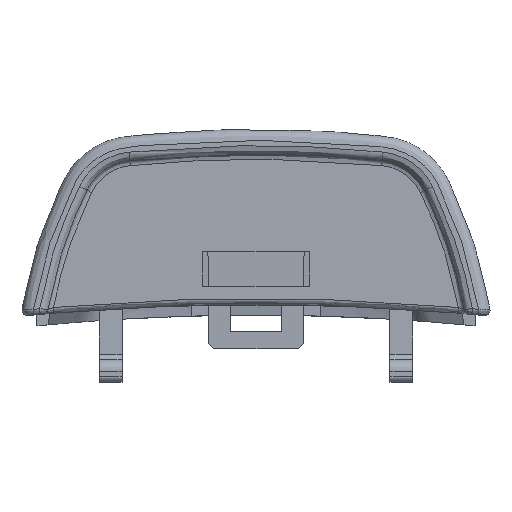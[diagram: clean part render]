
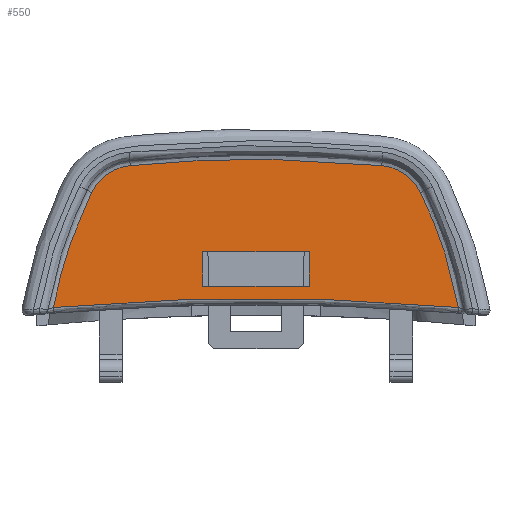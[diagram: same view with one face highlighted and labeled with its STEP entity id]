
A CAD part, front view. The second image highlights one B-rep face of the part: STEP entity #550.
In plain terms, the highlighted planar face has unit normal (0, -1, 0.018).
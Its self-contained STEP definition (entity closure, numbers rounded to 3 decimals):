
#137=(
BOUNDED_CURVE()
B_SPLINE_CURVE(3,(#37943,#37944,#37945,#37946),.UNSPECIFIED.,.F.,.F.)
B_SPLINE_CURVE_WITH_KNOTS((4,4),(0.,1.),.UNSPECIFIED.)
CURVE()
GEOMETRIC_REPRESENTATION_ITEM()
RATIONAL_B_SPLINE_CURVE((1.,0.997,0.997,1.))
REPRESENTATION_ITEM('')
);
#251=PLANE('',#1778);
#346=LINE('',#38021,#452);
#347=LINE('',#38024,#453);
#348=LINE('',#38026,#454);
#349=LINE('',#38028,#455);
#452=VECTOR('',#1907,1.);
#453=VECTOR('',#1908,1.);
#454=VECTOR('',#1909,1.);
#455=VECTOR('',#1910,1.);
#550=ADVANCED_FACE('',(#648,#649),#251,.T.);
#648=FACE_BOUND('',#679,.T.);
#649=FACE_BOUND('',#680,.T.);
#679=EDGE_LOOP('',(#864,#865,#866,#867,#868,#869));
#680=EDGE_LOOP('',(#870,#871,#872,#873));
#864=ORIENTED_EDGE('',*,*,#1517,.T.);
#865=ORIENTED_EDGE('',*,*,#1518,.T.);
#866=ORIENTED_EDGE('',*,*,#1519,.T.);
#867=ORIENTED_EDGE('',*,*,#1520,.T.);
#868=ORIENTED_EDGE('',*,*,#1521,.T.);
#869=ORIENTED_EDGE('',*,*,#1522,.T.);
#870=ORIENTED_EDGE('',*,*,#1523,.T.);
#871=ORIENTED_EDGE('',*,*,#1524,.T.);
#872=ORIENTED_EDGE('',*,*,#1525,.F.);
#873=ORIENTED_EDGE('',*,*,#1526,.F.);
#1342=VERTEX_POINT('',#37947);
#1343=VERTEX_POINT('',#37948);
#1344=VERTEX_POINT('',#37961);
#1345=VERTEX_POINT('',#37978);
#1346=VERTEX_POINT('',#37991);
#1347=VERTEX_POINT('',#38008);
#1348=VERTEX_POINT('',#38022);
#1349=VERTEX_POINT('',#38023);
#1350=VERTEX_POINT('',#38025);
#1351=VERTEX_POINT('',#38027);
#1517=EDGE_CURVE('',#1342,#1343,#137,.T.);
#1518=EDGE_CURVE('',#1343,#1344,#1740,.T.);
#1519=EDGE_CURVE('',#1344,#1345,#1741,.T.);
#1520=EDGE_CURVE('',#1345,#1346,#1742,.T.);
#1521=EDGE_CURVE('',#1346,#1347,#1743,.T.);
#1522=EDGE_CURVE('',#1347,#1342,#1744,.T.);
#1523=EDGE_CURVE('',#1348,#1349,#346,.T.);
#1524=EDGE_CURVE('',#1349,#1350,#347,.T.);
#1525=EDGE_CURVE('',#1351,#1350,#348,.T.);
#1526=EDGE_CURVE('',#1348,#1351,#349,.T.);
#1740=B_SPLINE_CURVE_WITH_KNOTS('',3,(#37949,#37950,#37951,#37952,#37953,
#37954,#37955,#37956,#37957,#37958,#37959,#37960),.UNSPECIFIED.,.F.,.F.,
(4,2,2,2,2,4),(0.,0.25,0.375,0.5,0.75,1.),.UNSPECIFIED.);
#1741=B_SPLINE_CURVE_WITH_KNOTS('',3,(#37962,#37963,#37964,#37965,#37966,
#37967,#37968,#37969,#37970,#37971,#37972,#37973,#37974,#37975,#37976,#37977),
 .UNSPECIFIED.,.F.,.F.,(4,2,2,2,2,2,2,4),(0.,0.25,0.375,0.5,
0.625,0.687,0.75,1.),.UNSPECIFIED.);
#1742=B_SPLINE_CURVE_WITH_KNOTS('',3,(#37979,#37980,#37981,#37982,#37983,
#37984,#37985,#37986,#37987,#37988,#37989,#37990),.UNSPECIFIED.,.F.,.F.,
(4,2,2,2,2,4),(0.,0.25,0.375,0.5,0.75,1.),.UNSPECIFIED.);
#1743=B_SPLINE_CURVE_WITH_KNOTS('',3,(#37992,#37993,#37994,#37995,#37996,
#37997,#37998,#37999,#38000,#38001,#38002,#38003,#38004,#38005,#38006,#38007),
 .UNSPECIFIED.,.F.,.F.,(4,2,2,2,2,2,2,4),(0.,0.25,0.375,0.5,
0.625,0.688,0.75,1.),.UNSPECIFIED.);
#1744=B_SPLINE_CURVE_WITH_KNOTS('',3,(#38009,#38010,#38011,#38012,#38013,
#38014,#38015,#38016,#38017,#38018,#38019,#38020),.UNSPECIFIED.,.F.,.F.,
(4,2,2,2,2,4),(0.,0.25,0.5,0.625,0.75,1.),.UNSPECIFIED.);
#1778=AXIS2_PLACEMENT_3D('',#38029,#1911,#1912);
#1907=DIRECTION('',(-1.,0.,0.));
#1908=DIRECTION('',(0.,0.017,1.));
#1909=DIRECTION('',(-1.,0.,0.));
#1910=DIRECTION('',(0.,0.017,1.));
#1911=DIRECTION('',(0.,-1.,0.017));
#1912=DIRECTION('',(0.,-0.017,-1.));
#37943=CARTESIAN_POINT('',(-19.947,-25.499,1.2));
#37944=CARTESIAN_POINT('',(-6.667,-25.478,2.4));
#37945=CARTESIAN_POINT('',(6.667,-25.478,2.4));
#37946=CARTESIAN_POINT('',(19.947,-25.499,1.2));
#37947=CARTESIAN_POINT('',(-19.947,-25.499,1.2));
#37948=CARTESIAN_POINT('',(19.947,-25.499,1.2));
#37949=CARTESIAN_POINT('',(19.947,-25.499,1.2));
#37950=CARTESIAN_POINT('',(19.767,-25.482,2.182));
#37951=CARTESIAN_POINT('',(19.552,-25.465,3.157));
#37952=CARTESIAN_POINT('',(19.181,-25.44,4.607));
#37953=CARTESIAN_POINT('',(19.049,-25.431,5.089));
#37954=CARTESIAN_POINT('',(18.768,-25.414,6.046));
#37955=CARTESIAN_POINT('',(18.619,-25.406,6.521));
#37956=CARTESIAN_POINT('',(18.15,-25.381,7.94));
#37957=CARTESIAN_POINT('',(17.804,-25.365,8.875));
#37958=CARTESIAN_POINT('',(17.047,-25.333,10.723));
#37959=CARTESIAN_POINT('',(16.637,-25.317,11.633));
#37960=CARTESIAN_POINT('',(16.196,-25.301,12.529));
#37961=CARTESIAN_POINT('',(16.196,-25.301,12.529));
#37962=CARTESIAN_POINT('',(16.196,-25.301,12.529));
#37963=CARTESIAN_POINT('',(16.016,-25.295,12.894));
#37964=CARTESIAN_POINT('',(15.794,-25.289,13.228));
#37965=CARTESIAN_POINT('',(15.401,-25.281,13.685));
#37966=CARTESIAN_POINT('',(15.26,-25.279,13.83));
#37967=CARTESIAN_POINT('',(14.958,-25.274,14.103));
#37968=CARTESIAN_POINT('',(14.8,-25.272,14.228));
#37969=CARTESIAN_POINT('',(14.47,-25.268,14.457));
#37970=CARTESIAN_POINT('',(14.298,-25.266,14.561));
#37971=CARTESIAN_POINT('',(14.03,-25.263,14.702));
#37972=CARTESIAN_POINT('',(13.939,-25.263,14.746));
#37973=CARTESIAN_POINT('',(13.753,-25.261,14.828));
#37974=CARTESIAN_POINT('',(13.659,-25.261,14.866));
#37975=CARTESIAN_POINT('',(13.184,-25.257,15.042));
#37976=CARTESIAN_POINT('',(12.792,-25.256,15.133));
#37977=CARTESIAN_POINT('',(12.387,-25.255,15.175));
#37978=CARTESIAN_POINT('',(12.387,-25.255,15.175));
#37979=CARTESIAN_POINT('',(12.387,-25.255,15.175));
#37980=CARTESIAN_POINT('',(10.328,-25.251,15.384));
#37981=CARTESIAN_POINT('',(8.266,-25.249,15.54));
#37982=CARTESIAN_POINT('',(5.169,-25.246,15.697));
#37983=CARTESIAN_POINT('',(4.135,-25.245,15.736));
#37984=CARTESIAN_POINT('',(2.067,-25.244,15.789));
#37985=CARTESIAN_POINT('',(1.033,-25.244,15.802));
#37986=CARTESIAN_POINT('',(-2.07,-25.244,15.802));
#37987=CARTESIAN_POINT('',(-4.136,-25.245,15.749));
#37988=CARTESIAN_POINT('',(-8.266,-25.249,15.54));
#37989=CARTESIAN_POINT('',(-10.33,-25.251,15.383));
#37990=CARTESIAN_POINT('',(-12.389,-25.255,15.174));
#37991=CARTESIAN_POINT('',(-12.389,-25.255,15.174));
#37992=CARTESIAN_POINT('',(-12.389,-25.255,15.174));
#37993=CARTESIAN_POINT('',(-12.794,-25.256,15.133));
#37994=CARTESIAN_POINT('',(-13.184,-25.257,15.042));
#37995=CARTESIAN_POINT('',(-13.749,-25.261,14.833));
#37996=CARTESIAN_POINT('',(-13.934,-25.263,14.752));
#37997=CARTESIAN_POINT('',(-14.295,-25.266,14.564));
#37998=CARTESIAN_POINT('',(-14.467,-25.268,14.459));
#37999=CARTESIAN_POINT('',(-14.797,-25.272,14.23));
#38000=CARTESIAN_POINT('',(-14.955,-25.274,14.105));
#38001=CARTESIAN_POINT('',(-15.179,-25.277,13.903));
#38002=CARTESIAN_POINT('',(-15.252,-25.279,13.833));
#38003=CARTESIAN_POINT('',(-15.394,-25.281,13.688));
#38004=CARTESIAN_POINT('',(-15.463,-25.282,13.613));
#38005=CARTESIAN_POINT('',(-15.793,-25.289,13.23));
#38006=CARTESIAN_POINT('',(-16.016,-25.295,12.894));
#38007=CARTESIAN_POINT('',(-16.196,-25.301,12.529));
#38008=CARTESIAN_POINT('',(-16.196,-25.301,12.529));
#38009=CARTESIAN_POINT('',(-16.196,-25.301,12.529));
#38010=CARTESIAN_POINT('',(-16.637,-25.317,11.633));
#38011=CARTESIAN_POINT('',(-17.047,-25.333,10.723));
#38012=CARTESIAN_POINT('',(-17.804,-25.365,8.875));
#38013=CARTESIAN_POINT('',(-18.15,-25.381,7.94));
#38014=CARTESIAN_POINT('',(-18.619,-25.406,6.521));
#38015=CARTESIAN_POINT('',(-18.768,-25.414,6.046));
#38016=CARTESIAN_POINT('',(-19.049,-25.431,5.089));
#38017=CARTESIAN_POINT('',(-19.181,-25.44,4.607));
#38018=CARTESIAN_POINT('',(-19.552,-25.465,3.157));
#38019=CARTESIAN_POINT('',(-19.767,-25.482,2.182));
#38020=CARTESIAN_POINT('',(-19.947,-25.499,1.2));
#38021=CARTESIAN_POINT('',(22.,-25.463,3.291));
#38022=CARTESIAN_POINT('',(5.225,-25.463,3.291));
#38023=CARTESIAN_POINT('',(-5.225,-25.463,3.291));
#38024=CARTESIAN_POINT('',(-5.225,-25.605,-4.855));
#38025=CARTESIAN_POINT('',(-5.225,-25.403,6.701));
#38026=CARTESIAN_POINT('',(22.,-25.403,6.701));
#38027=CARTESIAN_POINT('',(5.225,-25.403,6.701));
#38028=CARTESIAN_POINT('',(5.225,-25.605,-4.855));
#38029=CARTESIAN_POINT('',(22.,-25.605,-4.855));
